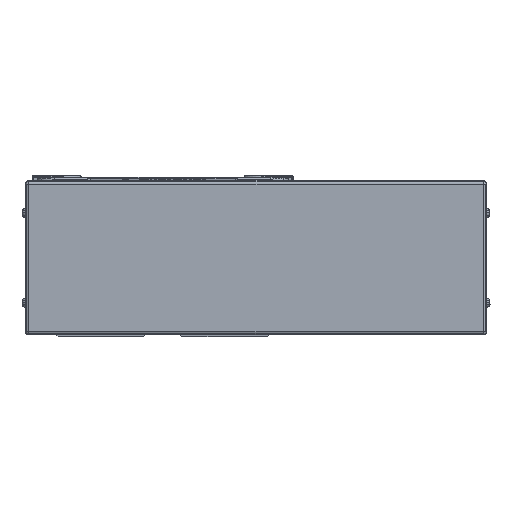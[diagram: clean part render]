
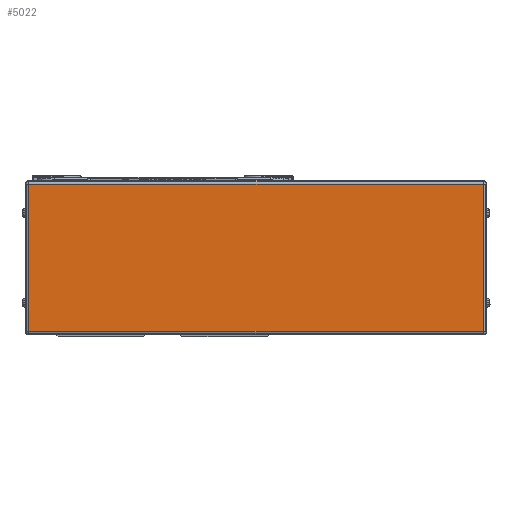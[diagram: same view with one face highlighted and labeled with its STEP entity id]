
A CAD part, left-side view. The second image highlights one B-rep face of the part: STEP entity #5022.
In plain terms, the highlighted planar face has unit normal (-1, 0, 0).
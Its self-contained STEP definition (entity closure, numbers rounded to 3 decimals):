
#5022=ADVANCED_FACE('',(#10852),#10853,.T.);
#10852=FACE_OUTER_BOUND('',#18686,.T.);
#10853=PLANE('',#18687);
#18686=EDGE_LOOP('',(#33191,#33192,#33193,#33194));
#18687=AXIS2_PLACEMENT_3D('',#33195,#33196,#33197);
#33191=ORIENTED_EDGE('',*,*,#43634,.F.);
#33192=ORIENTED_EDGE('',*,*,#46480,.F.);
#33193=ORIENTED_EDGE('',*,*,#46481,.F.);
#33194=ORIENTED_EDGE('',*,*,#46482,.F.);
#33195=CARTESIAN_POINT('',(-45.,-180.5,0.));
#33196=DIRECTION('',(-1.0,0.,0.));
#33197=DIRECTION('',(0.,0.,1.0));
#43634=EDGE_CURVE('',#53161,#53163,#53164,.T.);
#46480=EDGE_CURVE('',#51583,#53161,#57164,.T.);
#46481=EDGE_CURVE('',#56687,#51583,#57165,.T.);
#46482=EDGE_CURVE('',#53163,#56687,#57166,.T.);
#51583=VERTEX_POINT('',#63669);
#53161=VERTEX_POINT('',#65951);
#53163=VERTEX_POINT('',#65953);
#53164=LINE('',#65954,#65955);
#56687=VERTEX_POINT('',#71104);
#57164=LINE('',#71835,#71836);
#57165=LINE('',#71837,#71838);
#57166=LINE('',#71839,#71840);
#63669=CARTESIAN_POINT('',(-45.,74.5,41.));
#65951=CARTESIAN_POINT('',(-45.,-178.5,41.));
#65953=CARTESIAN_POINT('',(-45.,-178.5,-41.));
#65954=CARTESIAN_POINT('',(-45.,-178.5,0.));
#65955=VECTOR('',#78602,10.0);
#71104=CARTESIAN_POINT('',(-45.,74.5,-41.));
#71835=CARTESIAN_POINT('',(-45.,-180.5,41.));
#71836=VECTOR('',#82286,10.0);
#71837=CARTESIAN_POINT('',(-45.,74.5,0.));
#71838=VECTOR('',#82287,10.0);
#71839=CARTESIAN_POINT('',(-45.,-180.5,-41.));
#71840=VECTOR('',#82288,10.0);
#78602=DIRECTION('',(0.,0.,-1.0));
#82286=DIRECTION('',(0.,-1.0,0.));
#82287=DIRECTION('',(0.,0.,1.0));
#82288=DIRECTION('',(0.,1.0,0.));
